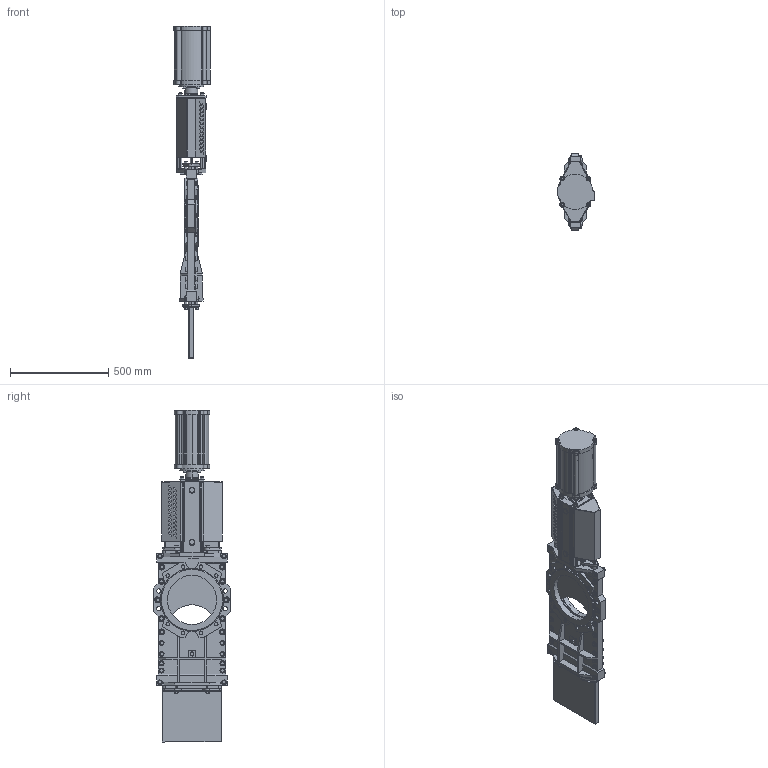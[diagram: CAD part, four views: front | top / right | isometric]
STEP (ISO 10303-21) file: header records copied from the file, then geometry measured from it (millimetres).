
FILE_DESCRIPTION(('STEP AP203'),'1');
FILE_NAME('F:/Alexander/tillfällig/NYABLOCK/HG-DN250_EC160.stp','2013-03-19T10:06:00',(' '),(' '),'Spatial InterOp 3D',' ',' ');
FILE_SCHEMA(('CONFIG_CONTROL_DESIGN'));
Length unit declared in the file: millimetre
Products named in the file (5): 1; 2; 3; 4; 5
Bounding box: 187.25 x 390 x 1689 mm (x, y, z)
Volume: 15338931.4 mm3; surface area: 3423056.9 mm2
Topology: 5 solids, 62 shells, 3438 faces, 8272 edges, 5208 vertices
Faces by surface type: plane 1397, cylinder 1177, cone 812, torus 52
Entity records: 101677 total; most frequent: CARTESIAN_POINT 21393, DIRECTION 17465, ORIENTED_EDGE 16504, EDGE_CURVE 8252, AXIS2_PLACEMENT_3D 6898, VERTEX_POINT 5208, EDGE_LOOP 3972, LINE 3669
